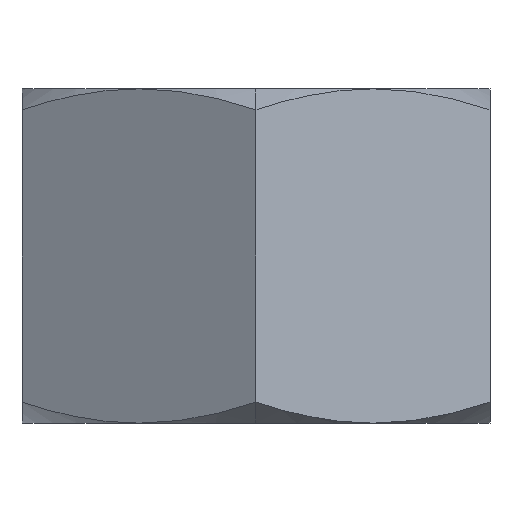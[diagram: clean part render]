
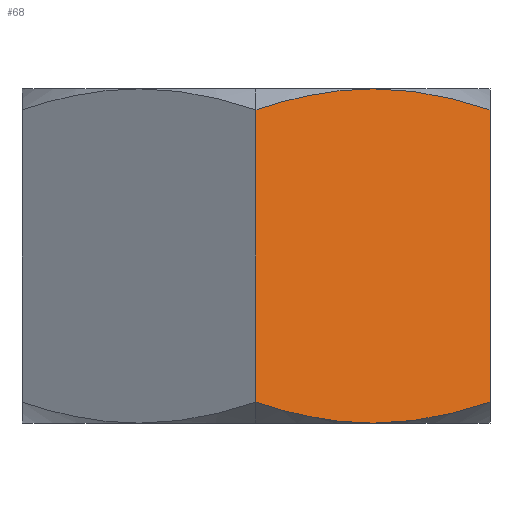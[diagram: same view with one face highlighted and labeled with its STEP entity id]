
A CAD part, left-side view. The second image highlights one B-rep face of the part: STEP entity #68.
In plain terms, the highlighted planar face has unit normal (-0.866, -0.5, 0).
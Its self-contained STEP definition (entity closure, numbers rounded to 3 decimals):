
#38 = CARTESIAN_POINT ( 'NONE',  ( -4.041, 0., -2.5 ) ) ;
#40 = DIRECTION ( 'NONE',  ( 0., 0., 1. ) ) ;
#54 = CARTESIAN_POINT ( 'NONE',  ( -2.021, -3.5, -2.187 ) ) ;
#68 = ADVANCED_FACE ( 'NONE', ( #245 ), #231, .T. ) ;
#107 = ORIENTED_EDGE ( 'NONE', *, *, #424, .T. ) ;
#111 = CARTESIAN_POINT ( 'NONE',  ( -2.186, -3.214, -2.283 ) ) ;
#146 = ORIENTED_EDGE ( 'NONE', *, *, #275, .F. ) ;
#157 = CARTESIAN_POINT ( 'NONE',  ( -4.041, 0., -2.187 ) ) ;
#172 = DIRECTION ( 'NONE',  ( 0.5, -0.866, 0. ) ) ;
#179 = CARTESIAN_POINT ( 'NONE',  ( -2.352, -2.926, 2.361 ) ) ;
#188 = CARTESIAN_POINT ( 'NONE',  ( -3.031, -1.75, 2.5 ) ) ;
#203 = DIRECTION ( 'NONE',  ( 0., 0., 1. ) ) ;
#231 = PLANE ( 'NONE',  #235 ) ;
#235 = AXIS2_PLACEMENT_3D ( 'NONE', #38, #513, #172 ) ;
#245 = FACE_OUTER_BOUND ( 'NONE', #637, .T. ) ;
#275 = EDGE_CURVE ( 'NONE', #625, #793, #413, .T. ) ;
#306 = CARTESIAN_POINT ( 'NONE',  ( -2.86, -2.047, 2.5 ) ) ;
#312 = CARTESIAN_POINT ( 'NONE',  ( -3.031, -1.75, 2.5 ) ) ;
#318 = EDGE_CURVE ( 'NONE', #697, #625, #343, .T. ) ;
#324 = CARTESIAN_POINT ( 'NONE',  ( -3.375, -1.154, -2.5 ) ) ;
#343 = LINE ( 'NONE', #684, #783 ) ;
#361 = VERTEX_POINT ( 'NONE', #553 ) ;
#372 = CARTESIAN_POINT ( 'NONE',  ( -2.021, -3.5, 2.187 ) ) ;
#387 = CARTESIAN_POINT ( 'NONE',  ( -2.021, -3.5, -2.187 ) ) ;
#391 = CARTESIAN_POINT ( 'NONE',  ( -4.041, 0., -2.187 ) ) ;
#397 = EDGE_CURVE ( 'NONE', #797, #429, #522, .T. ) ;
#402 = CARTESIAN_POINT ( 'NONE',  ( -3.375, -1.154, 2.5 ) ) ;
#413 = B_SPLINE_CURVE_WITH_KNOTS ( 'NONE', 3,
 ( #822, #477, #402, #312 ),
 .UNSPECIFIED., .F., .F.,
 ( 4, 4 ),
 ( 0., 0.002 ),
 .UNSPECIFIED. ) ;
#424 = EDGE_CURVE ( 'NONE', #361, #797, #634, .T. ) ;
#429 = VERTEX_POINT ( 'NONE', #372 ) ;
#459 = CARTESIAN_POINT ( 'NONE',  ( -3.031, -1.75, -2.5 ) ) ;
#461 = EDGE_CURVE ( 'NONE', #793, #429, #547, .T. ) ;
#463 = CARTESIAN_POINT ( 'NONE',  ( -2.688, -2.344, 2.47 ) ) ;
#467 = EDGE_CURVE ( 'NONE', #697, #361, #621, .T. ) ;
#477 = CARTESIAN_POINT ( 'NONE',  ( -3.711, -0.573, 2.378 ) ) ;
#513 = DIRECTION ( 'NONE',  ( -0.866, -0.5, 0. ) ) ;
#522 = LINE ( 'NONE', #654, #768 ) ;
#527 = CARTESIAN_POINT ( 'NONE',  ( -2.021, -3.5, 2.187 ) ) ;
#547 = B_SPLINE_CURVE_WITH_KNOTS ( 'NONE', 3,
 ( #188, #306, #463, #179, #735, #527 ),
 .UNSPECIFIED., .F., .F.,
 ( 4, 2, 4 ),
 ( 0.002, 0.003, 0.004 ),
 .UNSPECIFIED. ) ;
#553 = CARTESIAN_POINT ( 'NONE',  ( -3.031, -1.75, -2.5 ) ) ;
#567 = CARTESIAN_POINT ( 'NONE',  ( -3.031, -1.75, 2.5 ) ) ;
#604 = CARTESIAN_POINT ( 'NONE',  ( -3.031, -1.75, -2.5 ) ) ;
#621 = B_SPLINE_CURVE_WITH_KNOTS ( 'NONE', 3,
 ( #391, #808, #324, #604 ),
 .UNSPECIFIED., .F., .F.,
 ( 4, 4 ),
 ( 0., 0.002 ),
 .UNSPECIFIED. ) ;
#625 = VERTEX_POINT ( 'NONE', #881 ) ;
#631 = ORIENTED_EDGE ( 'NONE', *, *, #467, .T. ) ;
#634 = B_SPLINE_CURVE_WITH_KNOTS ( 'NONE', 3,
 ( #459, #870, #795, #722, #111, #54 ),
 .UNSPECIFIED., .F., .F.,
 ( 4, 2, 4 ),
 ( 0.002, 0.003, 0.004 ),
 .UNSPECIFIED. ) ;
#637 = EDGE_LOOP ( 'NONE', ( #146, #770, #631, #107, #790, #781 ) ) ;
#654 = CARTESIAN_POINT ( 'NONE',  ( -2.021, -3.5, -2.5 ) ) ;
#684 = CARTESIAN_POINT ( 'NONE',  ( -4.041, 0., -2.5 ) ) ;
#697 = VERTEX_POINT ( 'NONE', #157 ) ;
#722 = CARTESIAN_POINT ( 'NONE',  ( -2.352, -2.926, -2.361 ) ) ;
#735 = CARTESIAN_POINT ( 'NONE',  ( -2.186, -3.214, 2.283 ) ) ;
#768 = VECTOR ( 'NONE', #40, 1000. ) ;
#770 = ORIENTED_EDGE ( 'NONE', *, *, #318, .F. ) ;
#781 = ORIENTED_EDGE ( 'NONE', *, *, #461, .F. ) ;
#783 = VECTOR ( 'NONE', #203, 1000. ) ;
#790 = ORIENTED_EDGE ( 'NONE', *, *, #397, .T. ) ;
#793 = VERTEX_POINT ( 'NONE', #567 ) ;
#795 = CARTESIAN_POINT ( 'NONE',  ( -2.688, -2.344, -2.47 ) ) ;
#797 = VERTEX_POINT ( 'NONE', #387 ) ;
#808 = CARTESIAN_POINT ( 'NONE',  ( -3.711, -0.573, -2.378 ) ) ;
#822 = CARTESIAN_POINT ( 'NONE',  ( -4.041, 0., 2.187 ) ) ;
#870 = CARTESIAN_POINT ( 'NONE',  ( -2.86, -2.047, -2.5 ) ) ;
#881 = CARTESIAN_POINT ( 'NONE',  ( -4.041, 0., 2.187 ) ) ;
